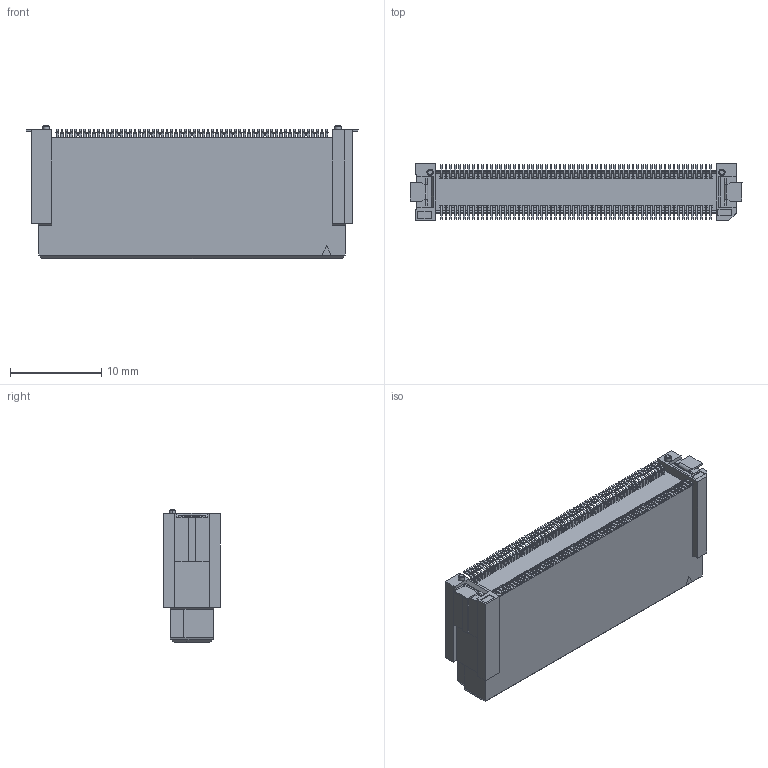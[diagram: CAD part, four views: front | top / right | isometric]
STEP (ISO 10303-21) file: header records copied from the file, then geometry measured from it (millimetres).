
FILE_DESCRIPTION(('Creo Elements/Direct Modeling STEP Export'),'2;1');
FILE_NAME('P3D900_DT11-120S-16-T.stp','2022-03-17T18:33:59',(''),(''),'Creo Elements/Direct Modeling STEP processor for AP214 (Solid Model)','Creo Elements/Direct Modeling 20.2 28-Feb-2019 (C) Parametric Technology GmbH','');
FILE_SCHEMA(('AUTOMOTIVE_DESIGN { 1 0 10303 214 1 1 1 1 }'));
Products named in the file (2): DT11-120S-16-T
Assembly tree (1 placements, depth 2):
  DT11-120S-16-T
    DT11-120S-16-T
Bounding box: 36.4 x 6.2 x 14.63 mm (x, y, z)
Volume: 2093.1 mm3; surface area: 1956.6 mm2
Topology: 1 solids, 1 shells, 3528 faces, 9954 edges, 6556 vertices
Faces by surface type: plane 2788, cylinder 736, cone 4
Entity records: 112441 total; most frequent: ORIENTED_EDGE 19908, CARTESIAN_POINT 19773, DIRECTION 18453, EDGE_CURVE 9954, VECTOR 7981, LINE 7981, VERTEX_POINT 6556, AXIS2_PLACEMENT_3D 5236
